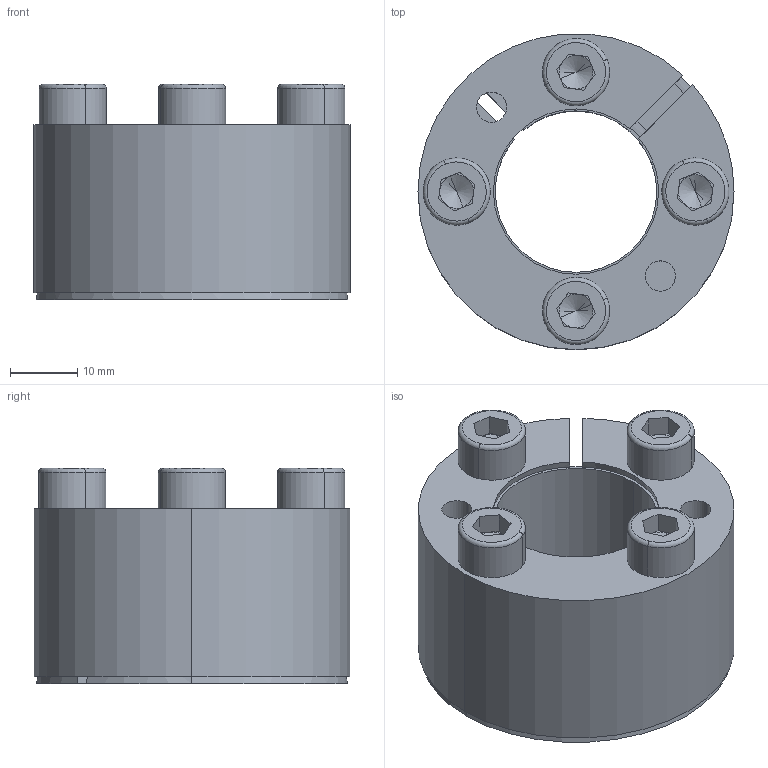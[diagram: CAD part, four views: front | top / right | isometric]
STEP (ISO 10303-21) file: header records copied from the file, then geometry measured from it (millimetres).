
FILE_DESCRIPTION (( 'STEP AP214' ), '1' );
FILE_NAME ('CONEX-K-24x47.step', '2013-04-06T13:20:52', ( 'Pc' ), ( '' ), 'SwSTEP 2.0', 'SolidWorks 2013', '' );
FILE_SCHEMA (( 'AUTOMOTIVE_DESIGN' ));
Length unit declared in the file: millimetre
Products named in the file (1): CONEX-K-24x47
Bounding box: 47 x 46.92 x 32.02 mm (x, y, z)
Volume: 26663.6 mm3; surface area: 20039.1 mm2
Topology: 6 solids, 6 shells, 162 faces, 378 edges, 228 vertices
Faces by surface type: plane 70, cylinder 48, cone 28, torus 16
Entity records: 6473 total; most frequent: DIRECTION 866, CARTESIAN_POINT 785, ORIENTED_EDGE 740, EDGE_CURVE 370, AXIS2_PLACEMENT_3D 341, VERTEX_POINT 228, EDGE_LOOP 190, VECTOR 184
